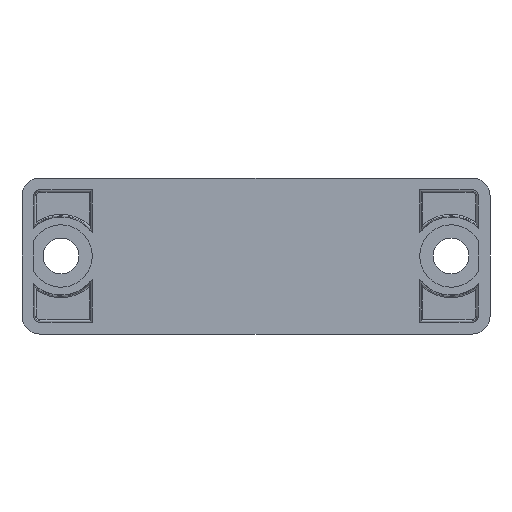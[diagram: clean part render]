
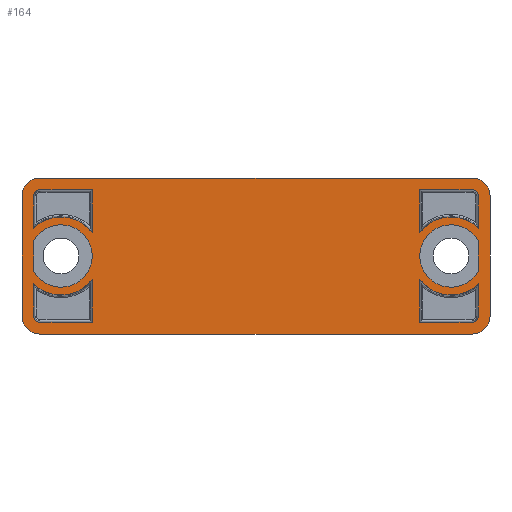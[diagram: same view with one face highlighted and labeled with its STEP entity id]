
A CAD part, front view. The second image highlights one B-rep face of the part: STEP entity #164.
In plain terms, the highlighted planar face has unit normal (0, -1, 0).
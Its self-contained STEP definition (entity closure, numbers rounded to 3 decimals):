
#54=PLANE('',#1234);
#98=FACE_BOUND('',#319,.T.);
#99=FACE_BOUND('',#320,.T.);
#100=FACE_BOUND('',#321,.T.);
#101=FACE_BOUND('',#322,.T.);
#102=FACE_BOUND('',#323,.T.);
#103=FACE_BOUND('',#324,.T.);
#104=FACE_BOUND('',#325,.T.);
#164=ADVANCED_FACE('',(#98,#99,#100,#101,#102,#103,#104),#54,.T.);
#319=EDGE_LOOP('',(#610,#611));
#320=EDGE_LOOP('',(#612,#613,#614,#615,#616));
#321=EDGE_LOOP('',(#617,#618,#619,#620,#621));
#322=EDGE_LOOP('',(#622,#623,#624,#625,#626));
#323=EDGE_LOOP('',(#627,#628,#629,#630,#631));
#324=EDGE_LOOP('',(#632,#633,#634,#635,#636,#637,#638,#639));
#325=EDGE_LOOP('',(#640,#641));
#400=LINE('',#1874,#486);
#401=LINE('',#1875,#487);
#402=LINE('',#1880,#488);
#403=LINE('',#1884,#489);
#404=LINE('',#1885,#490);
#405=LINE('',#1890,#491);
#406=LINE('',#1891,#492);
#407=LINE('',#1892,#493);
#408=LINE('',#1894,#494);
#409=LINE('',#1898,#495);
#410=LINE('',#1899,#496);
#411=LINE('',#1902,#497);
#412=LINE('',#1906,#498);
#413=LINE('',#1912,#499);
#414=LINE('',#1916,#500);
#415=LINE('',#1920,#501);
#416=LINE('',#1924,#502);
#417=LINE('',#1925,#503);
#486=VECTOR('',#1400,1.);
#487=VECTOR('',#1401,1.);
#488=VECTOR('',#1404,1.);
#489=VECTOR('',#1407,1.);
#490=VECTOR('',#1408,1.);
#491=VECTOR('',#1411,1.);
#492=VECTOR('',#1412,1.);
#493=VECTOR('',#1413,1.);
#494=VECTOR('',#1414,1.);
#495=VECTOR('',#1417,1.);
#496=VECTOR('',#1418,1.);
#497=VECTOR('',#1419,1.);
#498=VECTOR('',#1422,1.);
#499=VECTOR('',#1427,1.);
#500=VECTOR('',#1430,1.);
#501=VECTOR('',#1433,1.);
#502=VECTOR('',#1436,1.);
#503=VECTOR('',#1437,1.);
#610=ORIENTED_EDGE('',*,*,#1022,.F.);
#611=ORIENTED_EDGE('',*,*,#982,.F.);
#612=ORIENTED_EDGE('',*,*,#1023,.F.);
#613=ORIENTED_EDGE('',*,*,#1024,.F.);
#614=ORIENTED_EDGE('',*,*,#1025,.F.);
#615=ORIENTED_EDGE('',*,*,#1026,.F.);
#616=ORIENTED_EDGE('',*,*,#1027,.F.);
#617=ORIENTED_EDGE('',*,*,#1028,.F.);
#618=ORIENTED_EDGE('',*,*,#1029,.F.);
#619=ORIENTED_EDGE('',*,*,#1030,.F.);
#620=ORIENTED_EDGE('',*,*,#996,.F.);
#621=ORIENTED_EDGE('',*,*,#1031,.F.);
#622=ORIENTED_EDGE('',*,*,#1032,.F.);
#623=ORIENTED_EDGE('',*,*,#1033,.F.);
#624=ORIENTED_EDGE('',*,*,#1034,.F.);
#625=ORIENTED_EDGE('',*,*,#1035,.F.);
#626=ORIENTED_EDGE('',*,*,#999,.F.);
#627=ORIENTED_EDGE('',*,*,#1036,.F.);
#628=ORIENTED_EDGE('',*,*,#1037,.F.);
#629=ORIENTED_EDGE('',*,*,#1038,.F.);
#630=ORIENTED_EDGE('',*,*,#1039,.F.);
#631=ORIENTED_EDGE('',*,*,#1040,.F.);
#632=ORIENTED_EDGE('',*,*,#1041,.F.);
#633=ORIENTED_EDGE('',*,*,#1042,.F.);
#634=ORIENTED_EDGE('',*,*,#1043,.F.);
#635=ORIENTED_EDGE('',*,*,#1044,.F.);
#636=ORIENTED_EDGE('',*,*,#1045,.F.);
#637=ORIENTED_EDGE('',*,*,#1046,.F.);
#638=ORIENTED_EDGE('',*,*,#1047,.F.);
#639=ORIENTED_EDGE('',*,*,#1048,.F.);
#640=ORIENTED_EDGE('',*,*,#1049,.F.);
#641=ORIENTED_EDGE('',*,*,#978,.F.);
#878=VERTEX_POINT('',#1655);
#879=VERTEX_POINT('',#1657);
#882=VERTEX_POINT('',#1664);
#883=VERTEX_POINT('',#1666);
#896=VERTEX_POINT('',#1805);
#897=VERTEX_POINT('',#1806);
#898=VERTEX_POINT('',#1817);
#899=VERTEX_POINT('',#1818);
#920=VERTEX_POINT('',#1876);
#921=VERTEX_POINT('',#1877);
#922=VERTEX_POINT('',#1879);
#923=VERTEX_POINT('',#1881);
#924=VERTEX_POINT('',#1883);
#925=VERTEX_POINT('',#1886);
#926=VERTEX_POINT('',#1887);
#927=VERTEX_POINT('',#1889);
#928=VERTEX_POINT('',#1893);
#929=VERTEX_POINT('',#1895);
#930=VERTEX_POINT('',#1897);
#931=VERTEX_POINT('',#1900);
#932=VERTEX_POINT('',#1901);
#933=VERTEX_POINT('',#1903);
#934=VERTEX_POINT('',#1905);
#935=VERTEX_POINT('',#1907);
#936=VERTEX_POINT('',#1910);
#937=VERTEX_POINT('',#1911);
#938=VERTEX_POINT('',#1913);
#939=VERTEX_POINT('',#1915);
#940=VERTEX_POINT('',#1917);
#941=VERTEX_POINT('',#1919);
#942=VERTEX_POINT('',#1921);
#943=VERTEX_POINT('',#1923);
#978=EDGE_CURVE('',#878,#879,#1135,.T.);
#982=EDGE_CURVE('',#882,#883,#1137,.T.);
#996=EDGE_CURVE('',#896,#897,#1144,.T.);
#999=EDGE_CURVE('',#898,#899,#1145,.T.);
#1022=EDGE_CURVE('',#883,#882,#400,.T.);
#1023=EDGE_CURVE('',#920,#921,#401,.T.);
#1024=EDGE_CURVE('',#922,#920,#1158,.T.);
#1025=EDGE_CURVE('',#923,#922,#402,.T.);
#1026=EDGE_CURVE('',#924,#923,#1159,.T.);
#1027=EDGE_CURVE('',#921,#924,#403,.T.);
#1028=EDGE_CURVE('',#925,#926,#404,.T.);
#1029=EDGE_CURVE('',#927,#925,#1160,.T.);
#1030=EDGE_CURVE('',#897,#927,#405,.T.);
#1031=EDGE_CURVE('',#926,#896,#406,.T.);
#1032=EDGE_CURVE('',#928,#898,#407,.T.);
#1033=EDGE_CURVE('',#929,#928,#408,.T.);
#1034=EDGE_CURVE('',#930,#929,#1161,.T.);
#1035=EDGE_CURVE('',#899,#930,#409,.T.);
#1036=EDGE_CURVE('',#931,#932,#410,.T.);
#1037=EDGE_CURVE('',#933,#931,#411,.T.);
#1038=EDGE_CURVE('',#934,#933,#1162,.T.);
#1039=EDGE_CURVE('',#935,#934,#412,.T.);
#1040=EDGE_CURVE('',#932,#935,#1163,.T.);
#1041=EDGE_CURVE('',#936,#937,#1164,.T.);
#1042=EDGE_CURVE('',#938,#936,#413,.T.);
#1043=EDGE_CURVE('',#939,#938,#1165,.T.);
#1044=EDGE_CURVE('',#940,#939,#414,.T.);
#1045=EDGE_CURVE('',#941,#940,#1166,.T.);
#1046=EDGE_CURVE('',#942,#941,#415,.T.);
#1047=EDGE_CURVE('',#943,#942,#1167,.T.);
#1048=EDGE_CURVE('',#937,#943,#416,.T.);
#1049=EDGE_CURVE('',#879,#878,#417,.T.);
#1135=CIRCLE('',#1188,4.);
#1137=CIRCLE('',#1191,4.);
#1144=CIRCLE('',#1202,5.);
#1145=CIRCLE('',#1204,5.);
#1158=CIRCLE('',#1224,5.);
#1159=CIRCLE('',#1225,0.8);
#1160=CIRCLE('',#1226,0.8);
#1161=CIRCLE('',#1227,0.8);
#1162=CIRCLE('',#1228,5.);
#1163=CIRCLE('',#1229,0.8);
#1164=CIRCLE('',#1230,2.3);
#1165=CIRCLE('',#1231,2.3);
#1166=CIRCLE('',#1232,2.3);
#1167=CIRCLE('',#1233,2.3);
#1188=AXIS2_PLACEMENT_3D('',#1656,#1317,#1318);
#1191=AXIS2_PLACEMENT_3D('',#1665,#1325,#1326);
#1202=AXIS2_PLACEMENT_3D('',#1804,#1348,#1349);
#1204=AXIS2_PLACEMENT_3D('',#1816,#1352,#1353);
#1224=AXIS2_PLACEMENT_3D('',#1878,#1402,#1403);
#1225=AXIS2_PLACEMENT_3D('',#1882,#1405,#1406);
#1226=AXIS2_PLACEMENT_3D('',#1888,#1409,#1410);
#1227=AXIS2_PLACEMENT_3D('',#1896,#1415,#1416);
#1228=AXIS2_PLACEMENT_3D('',#1904,#1420,#1421);
#1229=AXIS2_PLACEMENT_3D('',#1908,#1423,#1424);
#1230=AXIS2_PLACEMENT_3D('',#1909,#1425,#1426);
#1231=AXIS2_PLACEMENT_3D('',#1914,#1428,#1429);
#1232=AXIS2_PLACEMENT_3D('',#1918,#1431,#1432);
#1233=AXIS2_PLACEMENT_3D('',#1922,#1434,#1435);
#1234=AXIS2_PLACEMENT_3D('',#1926,#1438,#1439);
#1317=DIRECTION('',(0.,-1.,0.));
#1318=DIRECTION('',(0.,0.,-1.));
#1325=DIRECTION('',(0.,-1.,0.));
#1326=DIRECTION('',(0.,0.,1.));
#1348=DIRECTION('',(0.,1.,0.));
#1349=DIRECTION('',(0.,0.,1.));
#1352=DIRECTION('',(0.,1.,0.));
#1353=DIRECTION('',(0.,0.,-1.));
#1400=DIRECTION('',(0.,0.,1.));
#1401=DIRECTION('',(0.,0.,-1.));
#1402=DIRECTION('',(0.,1.,0.));
#1403=DIRECTION('',(0.,0.,1.));
#1404=DIRECTION('',(0.,0.,1.));
#1405=DIRECTION('',(0.,-1.,0.));
#1406=DIRECTION('',(0.,0.,-1.));
#1407=DIRECTION('',(1.,0.,0.));
#1408=DIRECTION('',(-1.,0.,0.));
#1409=DIRECTION('',(0.,-1.,0.));
#1410=DIRECTION('',(0.,0.,-1.));
#1411=DIRECTION('',(0.,0.,1.));
#1412=DIRECTION('',(0.,0.,-1.));
#1413=DIRECTION('',(0.,0.,1.));
#1414=DIRECTION('',(1.,0.,0.));
#1415=DIRECTION('',(0.,-1.,0.));
#1416=DIRECTION('',(0.,0.,-1.));
#1417=DIRECTION('',(0.,0.,-1.));
#1418=DIRECTION('',(-1.,0.,0.));
#1419=DIRECTION('',(0.,0.,1.));
#1420=DIRECTION('',(0.,1.,0.));
#1421=DIRECTION('',(0.,0.,-1.));
#1422=DIRECTION('',(0.,0.,-1.));
#1423=DIRECTION('',(0.,-1.,0.));
#1424=DIRECTION('',(0.,0.,-1.));
#1425=DIRECTION('',(0.,1.,0.));
#1426=DIRECTION('',(0.,0.,-1.));
#1427=DIRECTION('',(0.,0.,-1.));
#1428=DIRECTION('',(0.,1.,0.));
#1429=DIRECTION('',(0.,0.,-1.));
#1430=DIRECTION('',(1.,0.,0.));
#1431=DIRECTION('',(0.,1.,0.));
#1432=DIRECTION('',(0.,0.,-1.));
#1433=DIRECTION('',(0.,0.,1.));
#1434=DIRECTION('',(0.,1.,0.));
#1435=DIRECTION('',(0.,0.,-1.));
#1436=DIRECTION('',(-1.,0.,0.));
#1437=DIRECTION('',(0.,0.,-1.));
#1438=DIRECTION('',(0.,-1.,0.));
#1439=DIRECTION('',(0.,0.,1.));
#1655=CARTESIAN_POINT('',(-28.5,0.,-1.936));
#1656=CARTESIAN_POINT('',(-25.,0.,0.));
#1657=CARTESIAN_POINT('',(-28.5,0.,1.936));
#1664=CARTESIAN_POINT('',(28.5,0.,1.936));
#1665=CARTESIAN_POINT('',(25.,0.,0.));
#1666=CARTESIAN_POINT('',(28.5,0.,-1.936));
#1804=CARTESIAN_POINT('',(25.,0.,0.));
#1805=CARTESIAN_POINT('',(21.,0.,3.));
#1806=CARTESIAN_POINT('',(28.5,0.,3.571));
#1816=CARTESIAN_POINT('',(-25.,0.,0.));
#1817=CARTESIAN_POINT('',(-21.,0.,-3.));
#1818=CARTESIAN_POINT('',(-28.5,0.,-3.571));
#1874=CARTESIAN_POINT('',(28.5,0.,-1.936));
#1875=CARTESIAN_POINT('',(21.,0.,-3.));
#1876=CARTESIAN_POINT('',(21.,0.,-3.));
#1877=CARTESIAN_POINT('',(21.,0.,-8.5));
#1878=CARTESIAN_POINT('',(25.,0.,0.));
#1879=CARTESIAN_POINT('',(28.5,0.,-3.571));
#1880=CARTESIAN_POINT('',(28.5,0.,-7.7));
#1881=CARTESIAN_POINT('',(28.5,0.,-7.7));
#1882=CARTESIAN_POINT('',(27.7,0.,-7.7));
#1883=CARTESIAN_POINT('',(27.7,0.,-8.5));
#1884=CARTESIAN_POINT('',(21.,0.,-8.5));
#1885=CARTESIAN_POINT('',(27.7,0.,8.5));
#1886=CARTESIAN_POINT('',(27.7,0.,8.5));
#1887=CARTESIAN_POINT('',(21.,0.,8.5));
#1888=CARTESIAN_POINT('',(27.7,0.,7.7));
#1889=CARTESIAN_POINT('',(28.5,0.,7.7));
#1890=CARTESIAN_POINT('',(28.5,0.,3.571));
#1891=CARTESIAN_POINT('',(21.,0.,8.5));
#1892=CARTESIAN_POINT('',(-21.,0.,-3.));
#1893=CARTESIAN_POINT('',(-21.,0.,-8.5));
#1894=CARTESIAN_POINT('',(-27.7,0.,-8.5));
#1895=CARTESIAN_POINT('',(-27.7,0.,-8.5));
#1896=CARTESIAN_POINT('',(-27.7,0.,-7.7));
#1897=CARTESIAN_POINT('',(-28.5,0.,-7.7));
#1898=CARTESIAN_POINT('',(-28.5,0.,-3.571));
#1899=CARTESIAN_POINT('',(-21.,0.,8.5));
#1900=CARTESIAN_POINT('',(-21.,0.,8.5));
#1901=CARTESIAN_POINT('',(-27.7,0.,8.5));
#1902=CARTESIAN_POINT('',(-21.,0.,8.5));
#1903=CARTESIAN_POINT('',(-21.,0.,3.));
#1904=CARTESIAN_POINT('',(-25.,0.,0.));
#1905=CARTESIAN_POINT('',(-28.5,0.,3.571));
#1906=CARTESIAN_POINT('',(-28.5,0.,7.7));
#1907=CARTESIAN_POINT('',(-28.5,0.,7.7));
#1908=CARTESIAN_POINT('',(-27.7,0.,7.7));
#1909=CARTESIAN_POINT('',(27.7,0.,-7.7));
#1910=CARTESIAN_POINT('',(30.,0.,-7.7));
#1911=CARTESIAN_POINT('',(27.7,0.,-10.));
#1912=CARTESIAN_POINT('',(30.,0.,-7.7));
#1913=CARTESIAN_POINT('',(30.,0.,7.7));
#1914=CARTESIAN_POINT('',(27.7,0.,7.7));
#1915=CARTESIAN_POINT('',(27.7,0.,10.));
#1916=CARTESIAN_POINT('',(-27.7,0.,10.));
#1917=CARTESIAN_POINT('',(-27.7,0.,10.));
#1918=CARTESIAN_POINT('',(-27.7,0.,7.7));
#1919=CARTESIAN_POINT('',(-30.,0.,7.7));
#1920=CARTESIAN_POINT('',(-30.,0.,-7.7));
#1921=CARTESIAN_POINT('',(-30.,0.,-7.7));
#1922=CARTESIAN_POINT('',(-27.7,0.,-7.7));
#1923=CARTESIAN_POINT('',(-27.7,0.,-10.));
#1924=CARTESIAN_POINT('',(-27.7,0.,-10.));
#1925=CARTESIAN_POINT('',(-28.5,0.,1.936));
#1926=CARTESIAN_POINT('',(27.7,0.,-7.7));
